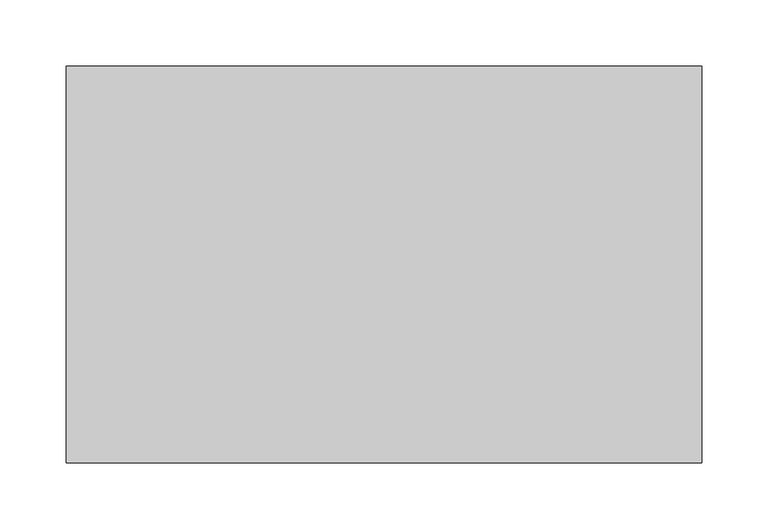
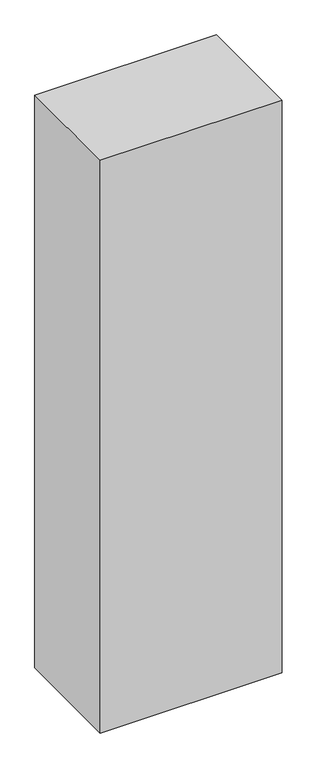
"""IFC4 building model written with IfcOpenShell, lengths in millimetres: column geometry, 2xU30 : 2xU30."""

from ifc_helpers import new_model, si_unit, origin, origin_with_axes, place, context, project, spatial, polyline, outline, extrude, source, transform, mapped, element, save


def column_701ced0a(model_context):
    return source(origin(), model_context, "Body", "SweptSolid", [
        extrude(outline(polyline([(-240.0, -150.0), (-240.0, 150.0), (240.0, 150.0), (240.0, -150.0), (-240.0, -150.0)])), origin_with_axes(), (0.0, 0.0, 1.0), 1600.0),
    ])


if __name__ == "__main__":
    model = new_model("IFC4")
    model_context = context("Model", 3, world=origin())
    ifc_project = project(units=[si_unit("LENGTHUNIT", "METRE", prefix="MILLI")], contexts=[model_context])
    site = spatial("IfcSite", under=ifc_project)
    building = spatial("IfcBuilding", under=site)
    placement = place(None, origin())
    column_shape = column_701ced0a(model_context)
    element("IfcColumn", 1, ObjectType="2xU30 : 2xU30", at=placement, inside=building, context=model_context, shape_type="MappedRepresentation", body=[
        mapped(column_shape, transform((0.0, 0.0, 0.0), x_axis=(1.0, 0.0, 0.0), y_axis=(0.0, 1.0, 0.0), z_axis=(0.0, 0.0, 1.0))),
    ])
    save(model, "model.ifc")
